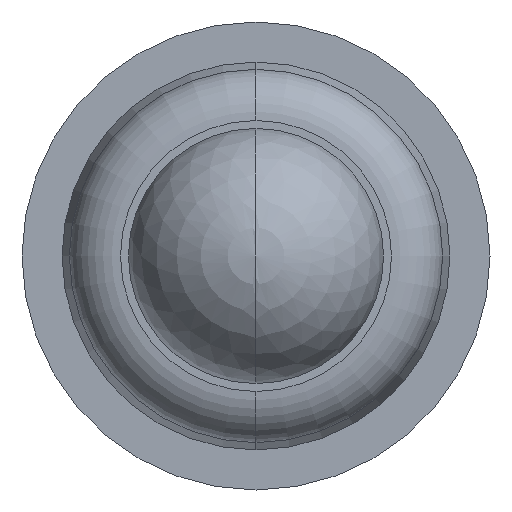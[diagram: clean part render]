
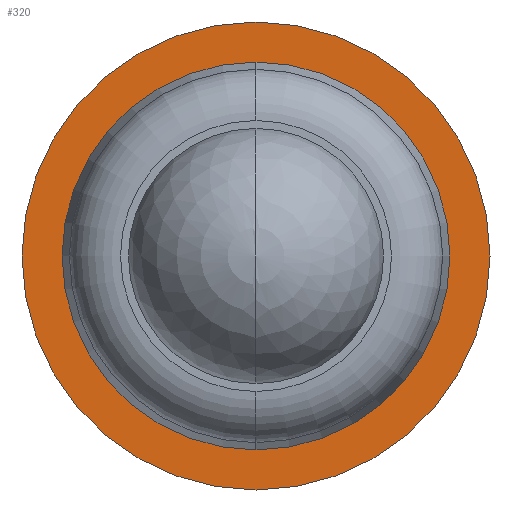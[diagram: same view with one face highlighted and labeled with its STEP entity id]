
A CAD part, left-side view. The second image highlights one B-rep face of the part: STEP entity #320.
In plain terms, the highlighted planar face has unit normal (-1, 0, 0).
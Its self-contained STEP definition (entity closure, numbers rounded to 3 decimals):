
#37=CARTESIAN_POINT('',(-0.396,0.,0.));
#38=DIRECTION('',(-1.,0.,0.));
#39=DIRECTION('',(0.,0.,-1.));
#40=AXIS2_PLACEMENT_3D('',#37,#38,#39);
#42=CARTESIAN_POINT('',(-0.396,0.,0.));
#43=DIRECTION('',(1.,0.,0.));
#44=DIRECTION('',(0.,0.,-1.));
#45=AXIS2_PLACEMENT_3D('',#42,#43,#44);
#47=CARTESIAN_POINT('',(-0.396,0.,0.));
#48=DIRECTION('',(1.,0.,0.));
#49=DIRECTION('',(0.,0.,-1.));
#50=AXIS2_PLACEMENT_3D('',#47,#48,#49);
#60=CARTESIAN_POINT('',(-0.396,0.,0.));
#61=DIRECTION('',(-1.,0.,0.));
#62=DIRECTION('',(0.,0.,-1.));
#63=AXIS2_PLACEMENT_3D('',#60,#61,#62);
#201=CARTESIAN_POINT('',(-0.396,0.,-0.914));
#202=VERTEX_POINT('',#201);
#203=CARTESIAN_POINT('',(-0.396,0.,-0.729));
#205=VERTEX_POINT('',#203);
#227=CARTESIAN_POINT('',(-0.396,0.,0.914));
#228=VERTEX_POINT('',#227);
#229=CARTESIAN_POINT('',(-0.396,0.,0.729));
#231=VERTEX_POINT('',#229);
#305=CARTESIAN_POINT('',(-0.396,0.,0.));
#306=DIRECTION('',(1.,0.,0.));
#307=DIRECTION('',(0.,0.,1.));
#308=AXIS2_PLACEMENT_3D('',#305,#306,#307);
#309=PLANE('',#308);
#310=ORIENTED_EDGE('',*,*,#284,.F.);
#311=ORIENTED_EDGE('',*,*,#300,.T.);
#312=EDGE_LOOP('',(#310,#311));
#313=FACE_OUTER_BOUND('',#312,.F.);
#315=ORIENTED_EDGE('',*,*,#314,.F.);
#317=ORIENTED_EDGE('',*,*,#316,.T.);
#318=EDGE_LOOP('',(#315,#317));
#319=FACE_BOUND('',#318,.F.);
#320=ADVANCED_FACE('',(#313,#319),#309,.F.);
#41=CIRCLE('',#40,0.914);
#46=CIRCLE('',#45,0.914);
#51=CIRCLE('',#50,0.729);
#64=CIRCLE('',#63,0.729);
#284=EDGE_CURVE('',#202,#228,#41,.T.);
#300=EDGE_CURVE('',#202,#228,#46,.T.);
#314=EDGE_CURVE('',#205,#231,#51,.T.);
#316=EDGE_CURVE('',#205,#231,#64,.T.);
